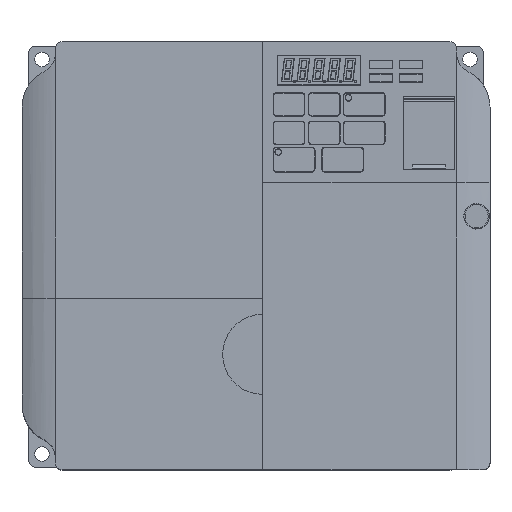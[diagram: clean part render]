
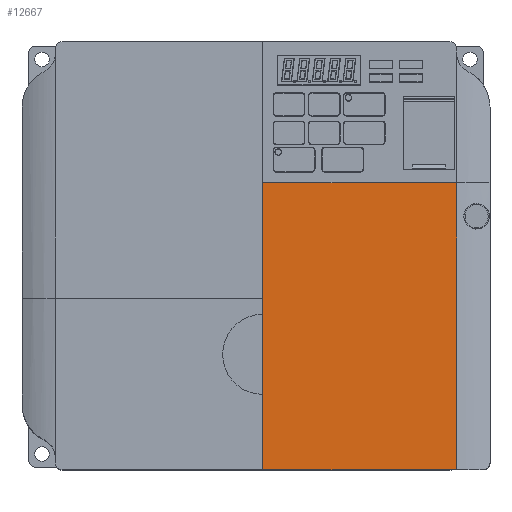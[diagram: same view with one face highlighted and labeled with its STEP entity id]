
A CAD part, top view. The second image highlights one B-rep face of the part: STEP entity #12667.
In plain terms, the highlighted planar face has unit normal (0, 0, 1).
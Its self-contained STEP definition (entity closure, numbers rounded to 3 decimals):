
#12211=DIRECTION('',(-1.,0.,0.));
#12212=VECTOR('',#12211,58.);
#12213=CARTESIAN_POINT('',(-6.,-75.8,8.));
#12214=LINE('',#12213,#12212);
#12220=DIRECTION('',(0.,1.,0.));
#12221=VECTOR('',#12220,85.8);
#12222=CARTESIAN_POINT('',(-64.,-75.8,8.));
#12223=LINE('',#12222,#12221);
#12237=DIRECTION('',(1.,0.,0.));
#12238=VECTOR('',#12237,58.);
#12239=CARTESIAN_POINT('',(-64.,10.,8.));
#12240=LINE('',#12239,#12238);
#12249=DIRECTION('',(0.,-1.,0.));
#12250=VECTOR('',#12249,85.8);
#12251=CARTESIAN_POINT('',(-6.,10.,8.));
#12252=LINE('',#12251,#12250);
#12485=CARTESIAN_POINT('',(-64.,10.,8.));
#12486=CARTESIAN_POINT('',(-6.,10.,8.));
#12487=VERTEX_POINT('',#12485);
#12488=VERTEX_POINT('',#12486);
#12489=CARTESIAN_POINT('',(-6.,-75.8,8.));
#12490=VERTEX_POINT('',#12489);
#12493=CARTESIAN_POINT('',(-64.,-75.8,8.));
#12494=VERTEX_POINT('',#12493);
#12656=CARTESIAN_POINT('',(-30.096,-32.779,8.));
#12657=DIRECTION('',(0.,0.,1.));
#12658=DIRECTION('',(1.,0.,0.));
#12659=AXIS2_PLACEMENT_3D('',#12656,#12657,#12658);
#12660=PLANE('',#12659);
#12661=ORIENTED_EDGE('',*,*,#12601,.T.);
#12662=ORIENTED_EDGE('',*,*,#12618,.T.);
#12663=ORIENTED_EDGE('',*,*,#12644,.T.);
#12664=ORIENTED_EDGE('',*,*,#12585,.T.);
#12665=EDGE_LOOP('',(#12661,#12662,#12663,#12664));
#12666=FACE_OUTER_BOUND('',#12665,.F.);
#12667=ADVANCED_FACE('',(#12666),#12660,.T.);
#12585=EDGE_CURVE('',#12490,#12494,#12214,.T.);
#12601=EDGE_CURVE('',#12494,#12487,#12223,.T.);
#12618=EDGE_CURVE('',#12487,#12488,#12240,.T.);
#12644=EDGE_CURVE('',#12488,#12490,#12252,.T.);
